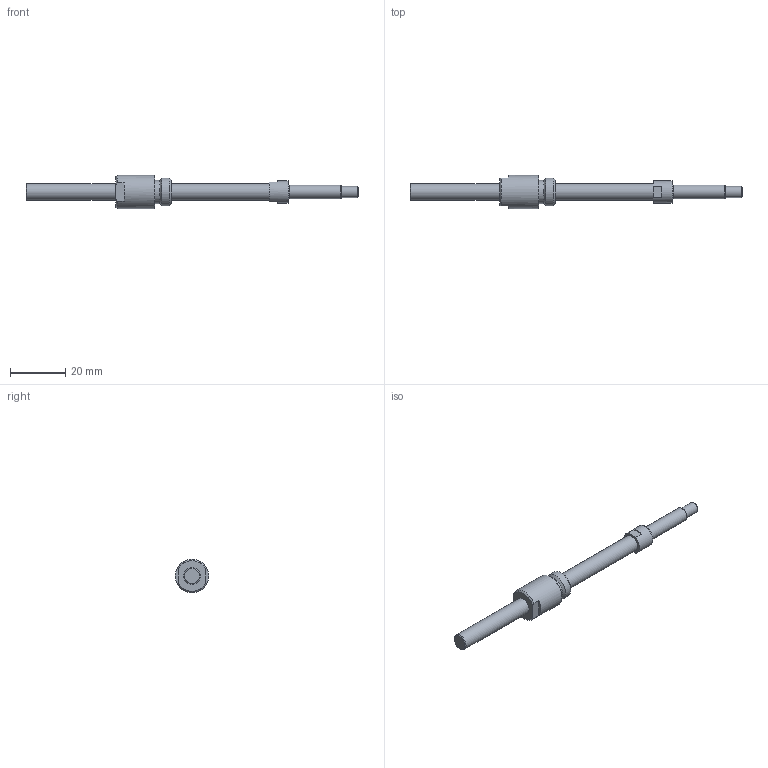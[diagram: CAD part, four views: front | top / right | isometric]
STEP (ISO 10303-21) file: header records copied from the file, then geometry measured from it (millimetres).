
FILE_DESCRIPTION(/* description */ ('STEP AP214'),/* implementation_level */ '2;1');
FILE_NAME(/* name */ 'NSG0601-085R120C5A0X(32.5)',/* time_stamp */ '2026-08-20T15:45:49+02:00',/* author */ ('License CC BY-ND 4.0'),/* organization */ ('CADENAS'),/* preprocessor_version */ 'ST-DEVELOPER v20',/* originating_system */ 'PARTsolutions',/* authorisation */ ' ');
FILE_SCHEMA (('AUTOMOTIVE_DESIGN {1 0 10303 214 3 1 1}'));
Length unit declared in the file: millimetre
Products named in the file (3): NSG0601-085R120C5A0X(32.5); NSG0601-85R120C3A_shaft; NSG0601_nut
Assembly tree (2 placements, depth 2):
  NSG0601-085R120C5A0X(32.5)
    NSG0601-85R120C3A_shaft
    NSG0601_nut
Bounding box: 120 x 12 x 12 mm (x, y, z)
Volume: 4677.6 mm3; surface area: 3551.2 mm2
Topology: 2 solids, 2 shells, 34 faces, 69 edges, 43 vertices
Faces by surface type: plane 16, cone 9, cylinder 8, torus 1
Full cylindrical faces by diameter (mm): 4 x1, 5 x1, 6 x2, 8 x1, 8.4 x1, 10 x1, 12 x1
Entity records: 877 total; most frequent: DIRECTION 152, CARTESIAN_POINT 141, ORIENTED_EDGE 102, AXIS2_PLACEMENT_3D 68, EDGE_LOOP 56, FACE_BOUND 56, EDGE_CURVE 51, VERTEX_POINT 41
